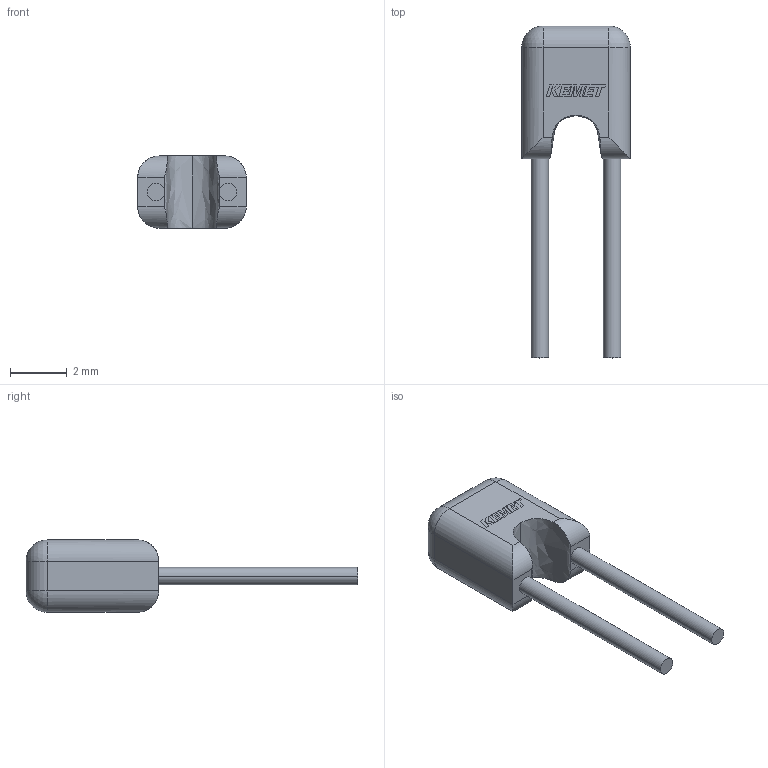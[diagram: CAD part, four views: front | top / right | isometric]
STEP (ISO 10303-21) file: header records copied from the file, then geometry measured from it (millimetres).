
FILE_DESCRIPTION (( 'STEP AP214' ), '1' );
FILE_NAME ('CCR_KRCST_3.81X3.14_L3.81H3.14T2.54S2.54LL7F0.61.STEP', '2018-07-16T19:53:42', ( '' ), ( '' ), 'SwSTEP 2.0', 'SolidWorks 2014', '' );
FILE_SCHEMA (( 'AUTOMOTIVE_DESIGN' ));
Length unit declared in the file: millimetre
Products named in the file (1): CCR_KRCST_3.81X3.14_L3.81H3.14T2.54S2.54LL7F0.61
Bounding box: 3.81 x 11.66 x 2.54 mm (x, y, z)
Volume: 39.5 mm3; surface area: 94.9 mm2
Topology: 4 solids, 4 shells, 88 faces, 224 edges, 140 vertices
Faces by surface type: plane 66, cylinder 16, sphere 4, bspline 2
Entity records: 3649 total; most frequent: CARTESIAN_POINT 539, ORIENTED_EDGE 440, DIRECTION 402, EDGE_CURVE 220, LINE 188, VECTOR 188, VERTEX_POINT 140, AXIS2_PLACEMENT_3D 107
